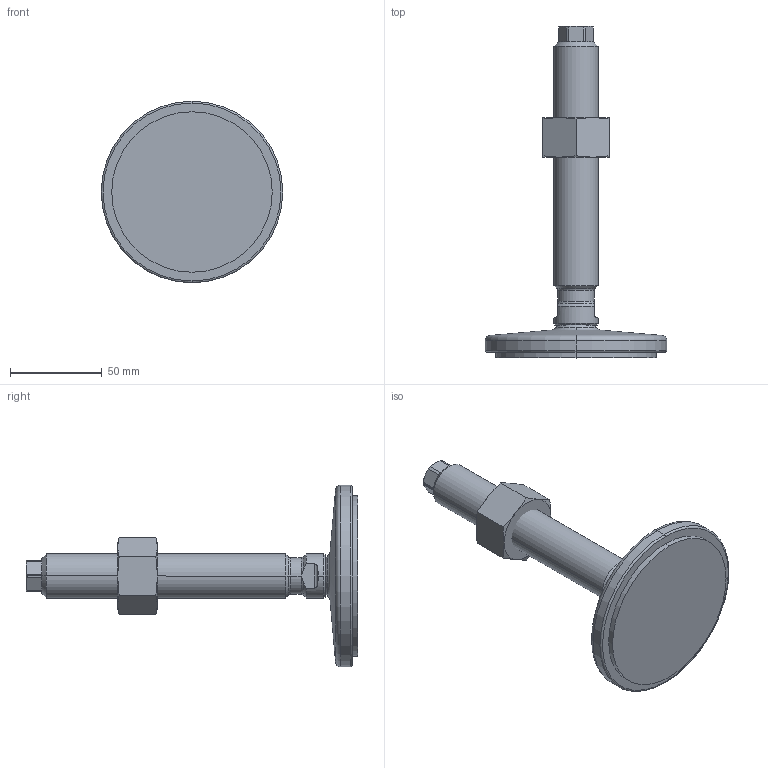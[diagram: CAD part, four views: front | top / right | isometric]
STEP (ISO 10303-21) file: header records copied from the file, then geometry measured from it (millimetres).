
FILE_DESCRIPTION (( 'STEP AP214' ), '1' );
FILE_NAME ('21-100-M24-150-D1-VK.step', '2020-10-02T17:37:30', ( '' ), ( '' ), 'SwSTEP 2.0', 'SolidWorks 2019', '' );
FILE_SCHEMA (( 'AUTOMOTIVE_DESIGN' ));
Length unit declared in the file: millimetre
Products named in the file (4): WB4032^WB21_V_M24; WB21_Spindel_V^WB21_V_M24-150; 21-100-M24-150-D1-VK; WB21_Fußteller 21^WB21_V_D1-100-R14-B9 (M24)
Assembly tree (3 placements, depth 2):
  21-100-M24-150-D1-VK
    WB21_Fußteller 21^WB21_V_D1-100-R14-B9 (M24)
    WB21_Spindel_V^WB21_V_M24-150
    WB4032^WB21_V_M24
Bounding box: 99 x 180.9 x 99 mm (x, y, z)
Volume: 185575.4 mm3; surface area: 37368.2 mm2
Topology: 3 solids, 3 shells, 98 faces, 219 edges, 129 vertices
Faces by surface type: cone 29, plane 28, cylinder 27, torus 10, sphere 4
Entity records: 3129 total; most frequent: CARTESIAN_POINT 736, DIRECTION 476, ORIENTED_EDGE 438, EDGE_CURVE 219, AXIS2_PLACEMENT_3D 205, VERTEX_POINT 129, EDGE_LOOP 102, CIRCLE 101
